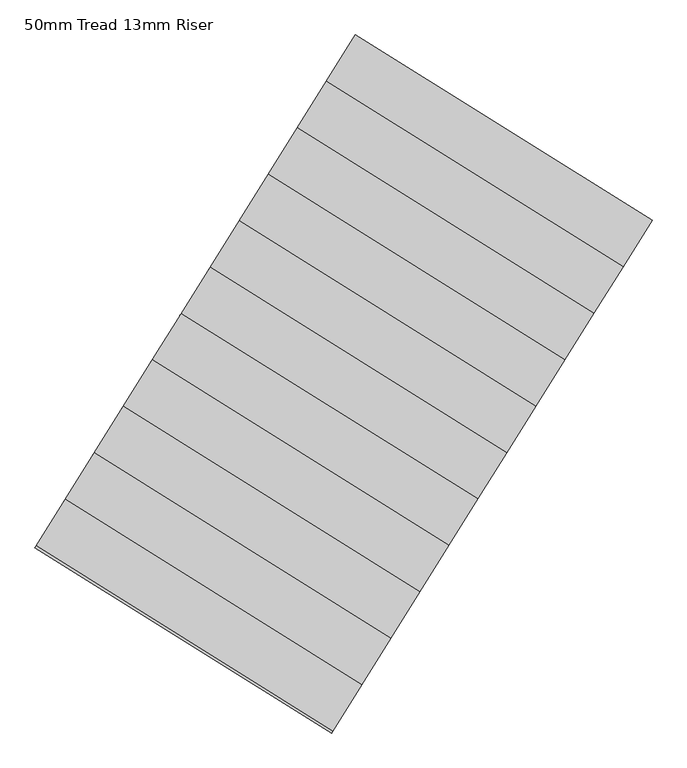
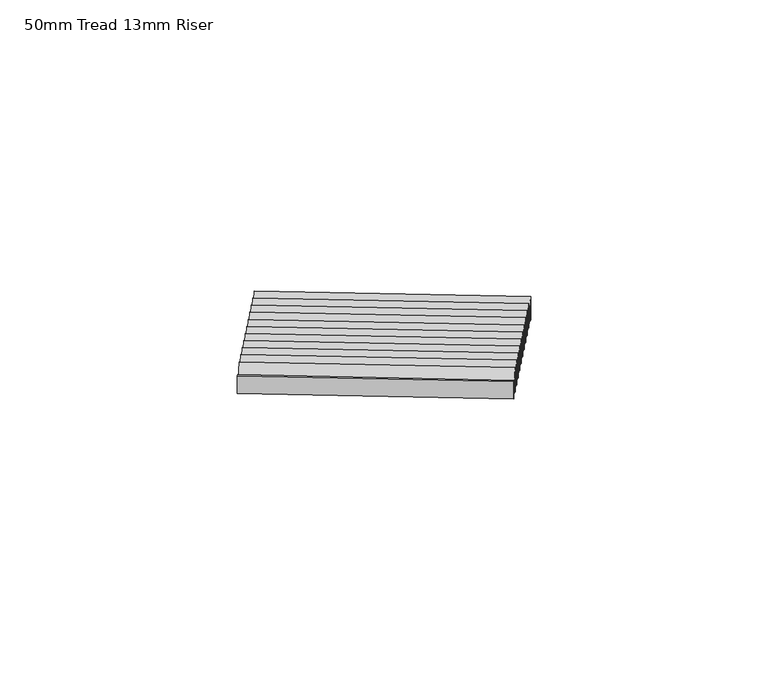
"""IFC4 building model written with IfcOpenShell, lengths in millimetres: stair flight geometry, 50mm Tread 13mm Riser."""

from ifc_helpers import new_model, si_unit, frame, origin, place, context, project, spatial, polyline, outline, extrude, source, transform, mapped, element, save


def stair_flight_50mm_tread_13mm_riser_4906f76d(model_context):
    return source(origin(), model_context, "Body", "SweptSolid", [
        extrude(outline(polyline([(47669.3716119, -50555.0585154), (47675.9956027, -50544.4579142), (49301.8555649, -51560.4079751), (49295.2315741, -51571.0085763), (47669.3716119, -50555.0585154)])), frame((0.0, 0.0, 5350.0), z_axis=(0.0, 0.0, 1.0), x_axis=(1.0, 0.0, 0.0)), (0.0, 0.0, 1.0), 150.0),
        extrude(outline(polyline([(49142.8797856, -51814.8224039), (47517.0198234, -50798.872343), (47675.9956027, -50544.4579142), (49301.8555649, -51560.4079751), (49142.8797856, -51814.8224039)])), frame((0.0, 0.0, 5500.0), z_axis=(0.0, 0.0, 1.0), x_axis=(1.0, 0.0, 0.0)), (0.0, 0.0, 1.0), 50.0),
        extrude(outline(polyline([(47510.3958326, -50809.4729442), (47517.0198234, -50798.872343), (49142.8797856, -51814.8224039), (49136.2557948, -51825.4230051), (47510.3958326, -50809.4729442)])), frame((0.0, 0.0, 5500.0), z_axis=(0.0, 0.0, 1.0), x_axis=(1.0, 0.0, 0.0)), (0.0, 0.0, 1.0), 150.0),
        extrude(outline(polyline([(48983.9040063, -52069.2368327), (47358.0440441, -51053.2867719), (47517.0198234, -50798.872343), (49142.8797856, -51814.8224039), (48983.9040063, -52069.2368327)])), frame((0.0, 0.0, 5650.0), z_axis=(0.0, 0.0, 1.0), x_axis=(1.0, 0.0, 0.0)), (0.0, 0.0, 1.0), 50.0),
        extrude(outline(polyline([(47351.4200533, -51063.8873731), (47358.0440441, -51053.2867719), (48983.9040063, -52069.2368327), (48977.2800155, -52079.837434), (47351.4200533, -51063.8873731)])), frame((0.0, 0.0, 5650.0), z_axis=(0.0, 0.0, 1.0), x_axis=(1.0, 0.0, 0.0)), (0.0, 0.0, 1.0), 150.0),
        extrude(outline(polyline([(48824.9282271, -52323.6512616), (47199.0682649, -51307.7012007), (47358.0440441, -51053.2867719), (48983.9040063, -52069.2368327), (48824.9282271, -52323.6512616)])), frame((0.0, 0.0, 5800.0), z_axis=(0.0, 0.0, 1.0), x_axis=(1.0, 0.0, 0.0)), (0.0, 0.0, 1.0), 50.0),
        extrude(outline(polyline([(47192.4442741, -51318.3018019), (47199.0682649, -51307.7012007), (48824.9282271, -52323.6512616), (48818.3042363, -52334.2518628), (47192.4442741, -51318.3018019)])), frame((0.0, 0.0, 5800.0), z_axis=(0.0, 0.0, 1.0), x_axis=(1.0, 0.0, 0.0)), (0.0, 0.0, 1.0), 150.0),
        extrude(outline(polyline([(48665.9524478, -52578.0656904), (47040.0924856, -51562.1156296), (47199.0682649, -51307.7012007), (48824.9282271, -52323.6512616), (48665.9524478, -52578.0656904)])), frame((0.0, 0.0, 5950.0), z_axis=(0.0, 0.0, 1.0), x_axis=(1.0, 0.0, 0.0)), (0.0, 0.0, 1.0), 50.0),
        extrude(outline(polyline([(47033.4684948, -51572.7162308), (47040.0924856, -51562.1156296), (48665.9524478, -52578.0656904), (48659.328457, -52588.6662916), (47033.4684948, -51572.7162308)])), frame((0.0, 0.0, 5950.0), z_axis=(0.0, 0.0, 1.0), x_axis=(1.0, 0.0, 0.0)), (0.0, 0.0, 1.0), 150.0),
        extrude(outline(polyline([(48506.9766685, -52832.4801193), (46881.1167063, -51816.5300584), (47040.0924856, -51562.1156296), (48665.9524478, -52578.0656904), (48506.9766685, -52832.4801193)])), frame((0.0, 0.0, 6100.0), z_axis=(0.0, 0.0, 1.0), x_axis=(1.0, 0.0, 0.0)), (0.0, 0.0, 1.0), 50.0),
        extrude(outline(polyline([(46874.4927155, -51827.1306596), (46881.1167063, -51816.5300584), (48506.9766685, -52832.4801193), (48500.3526777, -52843.0807205), (46874.4927155, -51827.1306596)])), frame((0.0, 0.0, 6100.0), z_axis=(0.0, 0.0, 1.0), x_axis=(1.0, 0.0, 0.0)), (0.0, 0.0, 1.0), 150.0),
        extrude(outline(polyline([(48348.0008893, -53086.8945481), (46722.140927, -52070.9444872), (46881.1167063, -51816.5300584), (48506.9766685, -52832.4801193), (48348.0008893, -53086.8945481)])), frame((0.0, 0.0, 6250.0), z_axis=(0.0, 0.0, 1.0), x_axis=(1.0, 0.0, 0.0)), (0.0, 0.0, 1.0), 50.0),
        extrude(outline(polyline([(46715.5169362, -52081.5450885), (46722.140927, -52070.9444872), (48348.0008893, -53086.8945481), (48341.3768985, -53097.4951493), (46715.5169362, -52081.5450885)])), frame((0.0, 0.0, 6250.0), z_axis=(0.0, 0.0, 1.0), x_axis=(1.0, 0.0, 0.0)), (0.0, 0.0, 1.0), 150.0),
        extrude(outline(polyline([(48189.02511, -53341.308977), (46563.1651478, -52325.3589161), (46722.140927, -52070.9444872), (48348.0008893, -53086.8945481), (48189.02511, -53341.308977)])), frame((0.0, 0.0, 6400.0), z_axis=(0.0, 0.0, 1.0), x_axis=(1.0, 0.0, 0.0)), (0.0, 0.0, 1.0), 50.0),
        extrude(outline(polyline([(46556.541157, -52335.9595173), (46563.1651478, -52325.3589161), (48189.02511, -53341.308977), (48182.4011192, -53351.9095782), (46556.541157, -52335.9595173)])), frame((0.0, 0.0, 6400.0), z_axis=(0.0, 0.0, 1.0), x_axis=(1.0, 0.0, 0.0)), (0.0, 0.0, 1.0), 150.0),
        extrude(outline(polyline([(48030.0493307, -53595.7234058), (46404.1893685, -52579.7733449), (46563.1651478, -52325.3589161), (48189.02511, -53341.308977), (48030.0493307, -53595.7234058)])), frame((0.0, 0.0, 6550.0), z_axis=(0.0, 0.0, 1.0), x_axis=(1.0, 0.0, 0.0)), (0.0, 0.0, 1.0), 50.0),
        extrude(outline(polyline([(46397.5653777, -52590.3739461), (46404.1893685, -52579.7733449), (48030.0493307, -53595.7234058), (48023.4253399, -53606.324007), (46397.5653777, -52590.3739461)])), frame((0.0, 0.0, 6550.0), z_axis=(0.0, 0.0, 1.0), x_axis=(1.0, 0.0, 0.0)), (0.0, 0.0, 1.0), 150.0),
        extrude(outline(polyline([(47871.0735515, -53850.1378347), (46245.2135892, -52834.1877738), (46404.1893685, -52579.7733449), (48030.0493307, -53595.7234058), (47871.0735515, -53850.1378347)])), frame((0.0, 0.0, 6700.0), z_axis=(0.0, 0.0, 1.0), x_axis=(1.0, 0.0, 0.0)), (0.0, 0.0, 1.0), 50.0),
        extrude(outline(polyline([(46238.5895984, -52844.788375), (46245.2135892, -52834.1877738), (47871.0735515, -53850.1378347), (47864.4495607, -53860.7384359), (46238.5895984, -52844.788375)])), frame((0.0, 0.0, 6700.0), z_axis=(0.0, 0.0, 1.0), x_axis=(1.0, 0.0, 0.0)), (0.0, 0.0, 1.0), 150.0),
        extrude(outline(polyline([(47712.0977722, -54104.5522635), (46086.23781, -53088.6022026), (46245.2135892, -52834.1877738), (47871.0735515, -53850.1378347), (47712.0977722, -54104.5522635)])), frame((0.0, 0.0, 6850.0), z_axis=(0.0, 0.0, 1.0), x_axis=(1.0, 0.0, 0.0)), (0.0, 0.0, 1.0), 50.0),
        extrude(outline(polyline([(46079.6138192, -53099.2028038), (46086.23781, -53088.6022026), (47712.0977722, -54104.5522635), (47705.4737814, -54115.1528647), (46079.6138192, -53099.2028038)])), frame((0.0, 0.0, 6850.0), z_axis=(0.0, 0.0, 1.0), x_axis=(1.0, 0.0, 0.0)), (0.0, 0.0, 1.0), 150.0),
        extrude(outline(polyline([(45920.6380399, -53353.6172327), (45927.2620307, -53343.0166315), (47553.1219929, -54358.9666924), (47546.4980021, -54369.5672936), (45920.6380399, -53353.6172327)])), frame((0.0, 0.0, 7000.0), z_axis=(0.0, 0.0, 1.0), x_axis=(1.0, 0.0, 0.0)), (0.0, 0.0, 1.0), 150.0),
        extrude(outline(polyline([(47553.1219929, -54358.9666924), (45927.2620307, -53343.0166315), (46086.23781, -53088.6022026), (47712.0977722, -54104.5522635), (47553.1219929, -54358.9666924)])), frame((0.0, 0.0, 7000.0), z_axis=(0.0, 0.0, 1.0), x_axis=(1.0, 0.0, 0.0)), (0.0, 0.0, 1.0), 50.0),
    ])


if __name__ == "__main__":
    model = new_model("IFC4")
    model_context = context("Model", 3, world=origin())
    ifc_project = project(units=[si_unit("LENGTHUNIT", "METRE", prefix="MILLI")], contexts=[model_context])
    site = spatial("IfcSite", under=ifc_project)
    building = spatial("IfcBuilding", under=site)
    placement = place(None, origin())
    stair_flight_50mm_tread_13mm_riser_shape = stair_flight_50mm_tread_13mm_riser_4906f76d(model_context)
    element("IfcStairFlight", 1, ObjectType="50mm Tread 13mm Riser", at=placement, inside=building, context=model_context, shape_type="MappedRepresentation", body=[
        mapped(stair_flight_50mm_tread_13mm_riser_shape, transform((0.0, 0.0, 0.0), x_axis=(1.0, 0.0, 0.0), y_axis=(0.0, 1.0, 0.0), z_axis=(0.0, 0.0, 1.0))),
    ])
    save(model, "model.ifc")
